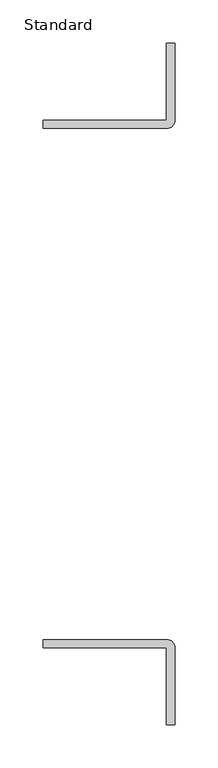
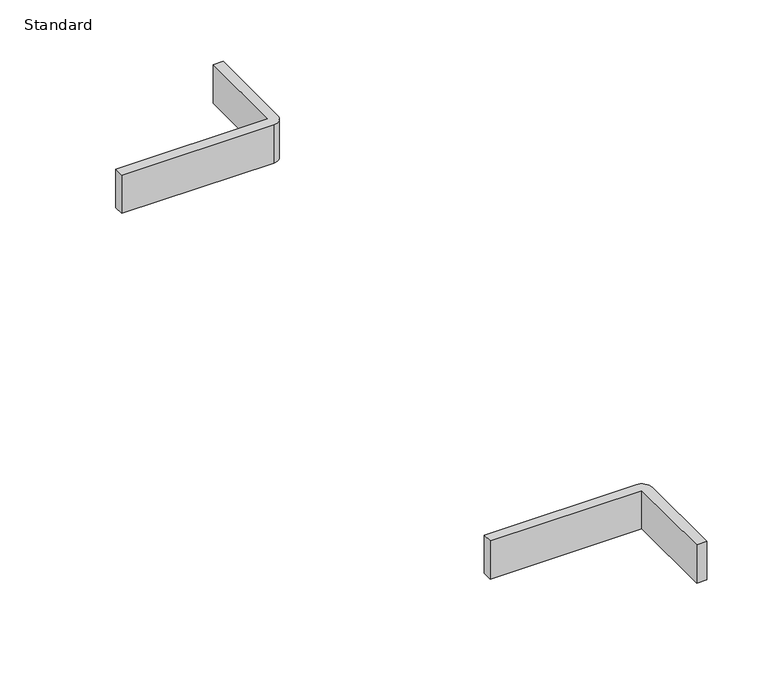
"""IFC4 building model written with IfcOpenShell, lengths in millimetres: cable carrier fitting geometry, Cable_Tray_Accessory-Chatsworth-Foot_Kit : Standard."""

from ifc_helpers import new_model, si_unit, point, frame, frame_2d, origin, place, context, project, spatial, polyline, circle_curve, trimmed, segment, composite_curve, outline, extrude, source, transform, mapped, element, save


def standard_0905c083(model_context):
    return source(origin(), model_context, "Body", "SweptSolid", [
        extrude(outline(composite_curve([segment(polyline([(142.875, 304.8), (142.875, 393.7), (152.4, 393.7), (152.4, 304.8)]), True, "CONTINUOUS"), segment(trimmed(circle_curve(frame_2d((142.875, 304.8)), 9.525), [point((152.4, 304.8))], [point((142.875, 295.275))], False, "CARTESIAN"), True, "CONTINUOUS"), segment(polyline([(142.875, 295.275), (0.0, 295.275), (0.0, 304.8), (142.875, 304.8)]), True, "CONTINUOUS")], self_intersect=False)), frame((0.0, 0.0, -19.05), z_axis=(0.0, 0.0, 1.0), x_axis=(1.0, 0.0, 0.0)), (0.0, 0.0, 1.0), 38.1),
        extrude(outline(composite_curve([segment(polyline([(142.875, -304.8), (0.0, -304.8), (0.0, -295.275), (142.875, -295.275)]), True, "CONTINUOUS"), segment(trimmed(circle_curve(frame_2d((142.875, -304.8)), 9.525), [point((142.875, -295.275))], [point((152.4, -304.8))], False, "CARTESIAN"), True, "CONTINUOUS"), segment(polyline([(152.4, -304.8), (152.4, -393.7), (142.875, -393.7), (142.875, -304.8)]), True, "CONTINUOUS")], self_intersect=False)), frame((0.0, 0.0, -19.05), z_axis=(0.0, 0.0, 1.0), x_axis=(1.0, 0.0, 0.0)), (0.0, 0.0, 1.0), 38.1),
    ])


if __name__ == "__main__":
    model = new_model("IFC4")
    model_context = context("Model", 3, world=origin())
    ifc_project = project(units=[si_unit("LENGTHUNIT", "METRE", prefix="MILLI")], contexts=[model_context])
    site = spatial("IfcSite", under=ifc_project)
    building = spatial("IfcBuilding", under=site)
    placement = place(None, origin())
    standard_shape = standard_0905c083(model_context)
    element("IfcCableCarrierFitting", 1, ObjectType="Cable_Tray_Accessory-Chatsworth-Foot_Kit : Standard", at=placement, inside=building, context=model_context, shape_type="MappedRepresentation", body=[
        mapped(standard_shape, transform((0.0, 0.0, 0.0), x_axis=(1.0, 0.0, 0.0), y_axis=(0.0, 1.0, 0.0), z_axis=(0.0, 0.0, 1.0))),
    ])
    save(model, "model.ifc")
